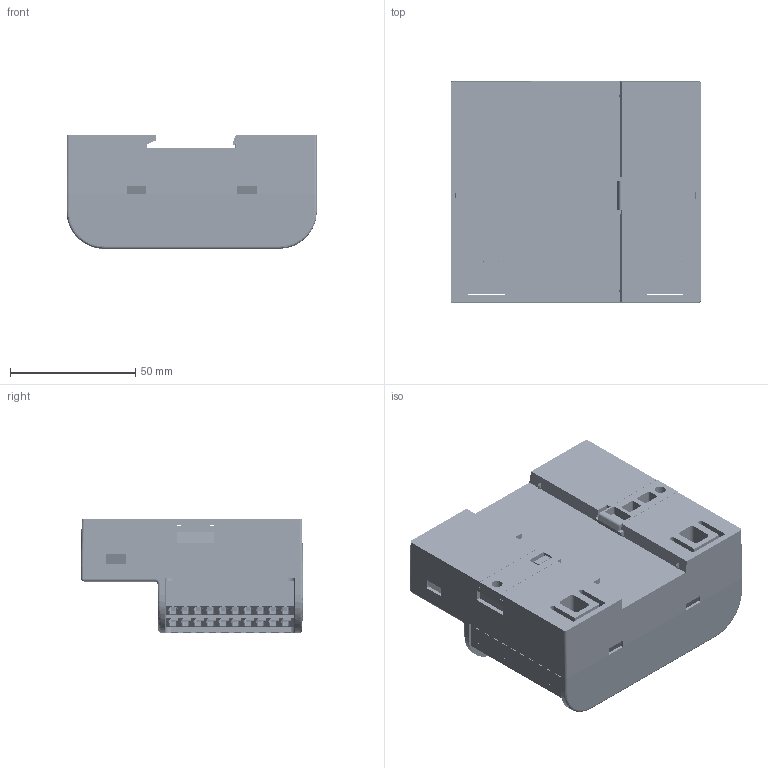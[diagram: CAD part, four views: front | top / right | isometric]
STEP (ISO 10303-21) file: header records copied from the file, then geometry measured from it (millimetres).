
FILE_DESCRIPTION(/* description */ (''),/* implementation_level */ '2;1');
FILE_NAME(/* name */ '22-152-1d.stp',/* time_stamp */ '2022-01-19T15:10:43+08:00',/* author */ (''),/* organization */ (''),/* preprocessor_version */ 'ST-DEVELOPER v16',/* originating_system */ 'SIEMENS PLM Software NX 10.0',/* authorisation */ '');
FILE_SCHEMA (('AP203_CONFIGURATION_CONTROLLED_3D_DESIGN_OF_MECHANICAL_PARTS_AND_ASSEMBLIES_MIM_LF { 1 0 10303 403 2 1 2}'));
Products named in the file (1): 73494D580734xmea
Bounding box: 100.3 x 88.8 x 45.4 mm (x, y, z)
Volume: 283959.9 mm3; surface area: 111272 mm2
Topology: 18 solids, 426 shells, 20540 faces, 52341 edges, 32618 vertices
Faces by surface type: plane 11655, cylinder 4985, cone 2198, extrusion 1434, sphere 162, torus 62, bspline 44
Entity records: 623901 total; most frequent: CARTESIAN_POINT 125822, ORIENTED_EDGE 104362, DIRECTION 101067, EDGE_CURVE 52181, VECTOR 37453, LINE 36019, VERTEX_POINT 32618, AXIS2_PLACEMENT_3D 31807
